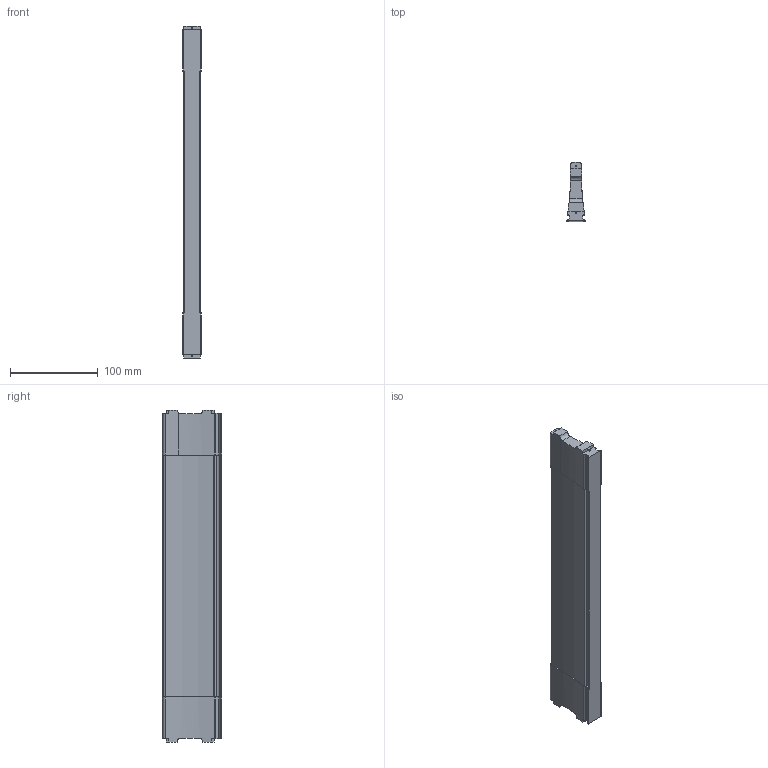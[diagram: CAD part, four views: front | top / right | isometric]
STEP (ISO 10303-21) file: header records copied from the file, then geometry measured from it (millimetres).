
FILE_DESCRIPTION (( 'STEP AP214' ), '1' );
FILE_NAME ('Traverse DWD XP NL400 Mass X368,4.step', '2010-09-21T13:16:37', ( 'grass' ), ( '' ), 'SwSTEP 2.0', 'SolidWorks 2010', '' );
FILE_SCHEMA (( 'AUTOMOTIVE_DESIGN' ));
Length unit declared in the file: millimetre
Products named in the file (1): Traverse DWD XP NL400 Mass X368,4
Bounding box: 21.4 x 67.5 x 377.4 mm (x, y, z)
Volume: 317530.8 mm3; surface area: 66271.3 mm2
Topology: 1 solids, 1 shells, 125 faces, 369 edges, 246 vertices
Faces by surface type: cylinder 68, plane 57
Entity records: 4377 total; most frequent: CARTESIAN_POINT 879, DIRECTION 753, ORIENTED_EDGE 738, EDGE_CURVE 369, AXIS2_PLACEMENT_3D 268, VERTEX_POINT 246, VECTOR 217, LINE 217
